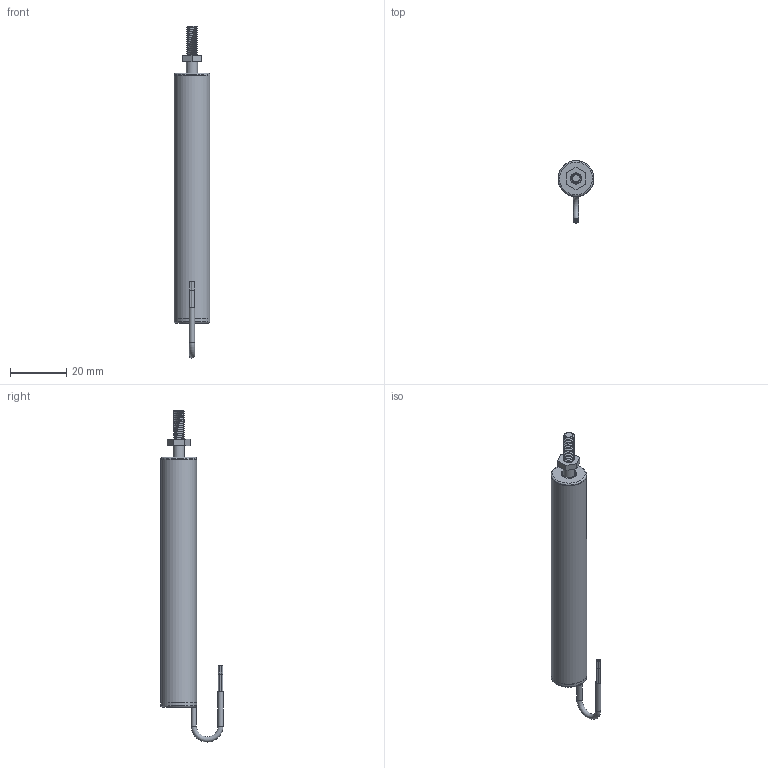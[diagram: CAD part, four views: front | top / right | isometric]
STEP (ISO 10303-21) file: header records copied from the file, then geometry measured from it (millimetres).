
FILE_DESCRIPTION(/* description */ (''),/* implementation_level */ '2;1');
FILE_NAME(/* name */ 'ILPS-13Z-075-A-00-YY-S Assembly (wrapped).iam.stp',/* time_stamp */ '2023-05-05T16:04:18-04:00',/* author */ ('TSC_Grant'),/* organization */ (''),/* preprocessor_version */ 'ST-DEVELOPER v19.2',/* originating_system */ 'Autodesk Inventor 2024',/* authorisation */ '');
FILE_SCHEMA (('AUTOMOTIVE_DESIGN { 1 0 10303 214 3 1 1 }'));
Length unit declared in the file: inch
Products named in the file (5): 3020-0017-XX Assembly_SW; 3020-0017-XX Sensor Tube_SW; 3020-0017-XX Shaft_SW; 3020-0017-XX Wire_SW; BS 4183 - M4
Assembly tree (4 placements, depth 2):
  3020-0017-XX Assembly_SW
    3020-0017-XX Sensor Tube_SW
    3020-0017-XX Shaft_SW
    3020-0017-XX Wire_SW
    BS 4183 - M4
Bounding box: 12.7 x 22.14 x 118.18 mm (x, y, z)
Volume: 2606.3 mm3; surface area: 12101.5 mm2
Topology: 7 solids, 7 shells, 64 faces, 122 edges, 80 vertices
Faces by surface type: plane 32, cylinder 22, cone 4, torus 3, bspline 3
Full cylindrical faces by diameter (mm): 0.508 x4, 0.635 x4, 1.857 x2, 3.242 x1, 3.988 x1, 4.826 x1, 5.588 x3, 12.446 x1, 12.7 x3
Entity records: 3534 total; most frequent: CARTESIAN_POINT 1890, DIRECTION 304, ORIENTED_EDGE 244, AXIS2_PLACEMENT_3D 127, EDGE_CURVE 122, EDGE_LOOP 82, VERTEX_POINT 80, FACE_OUTER_BOUND 64
